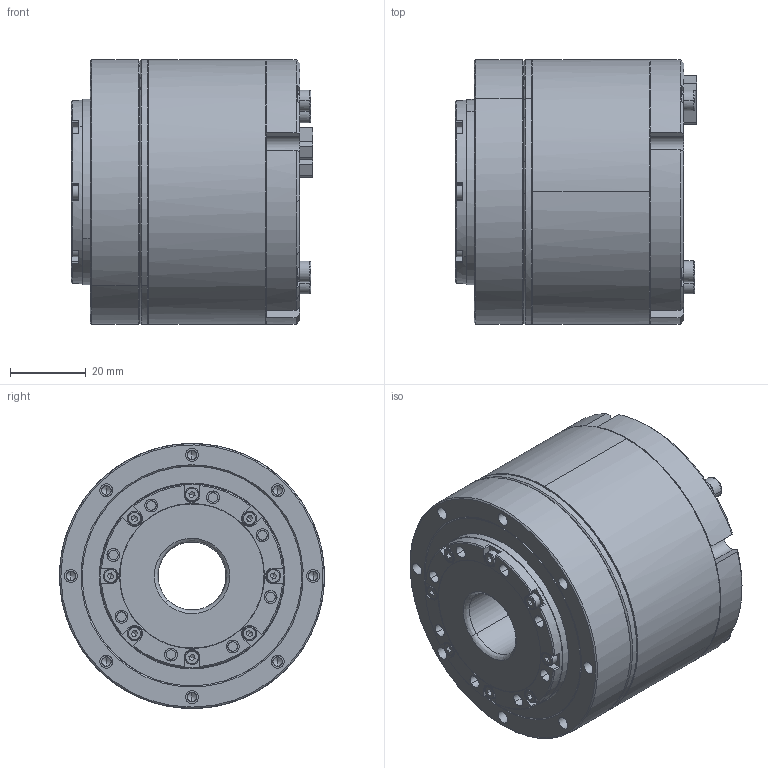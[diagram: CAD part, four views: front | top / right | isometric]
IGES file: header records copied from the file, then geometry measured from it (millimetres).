
Start section: SolidWorks IGES file using analytic representation for surfaces
Global section: file name: 89HG:\李鸿彬\00 官网需更新模型\00官网需更新模型 源文件\官网更新3D\I型\eRob70F 扁平型\eRob70F 扁平型 不带刹车（V3）\eRob70F××I-F-XX-18CX_V3_MC2A.9X.XX\eRob70F××I-F-XX-18CX_V3_MC2A.9X.XX.IGS; native system: SolidWorks 2021; preprocessor: SolidWorks 2021; author: ZERO; date: 250402.151929; units: millimetre
Bounding box: 63.8 x 70 x 70 mm (x, y, z)
Surface area: 47896.9 mm2 (no closed solid volume)
Topology: 0 solids, 41 shells, 2129 faces, 5562 edges, 3585 vertices
Faces by surface type: plane 1289, revolution 700, bspline 140
